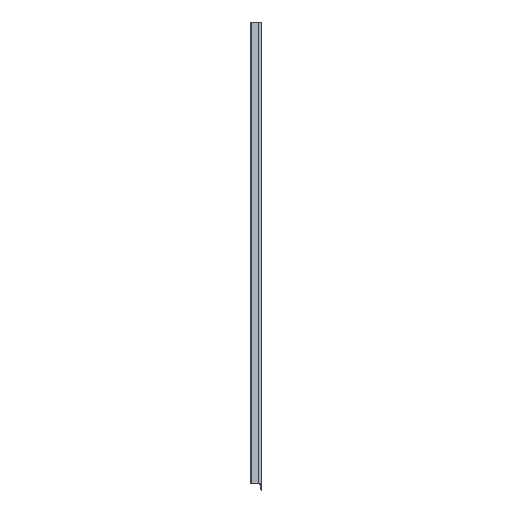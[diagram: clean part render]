
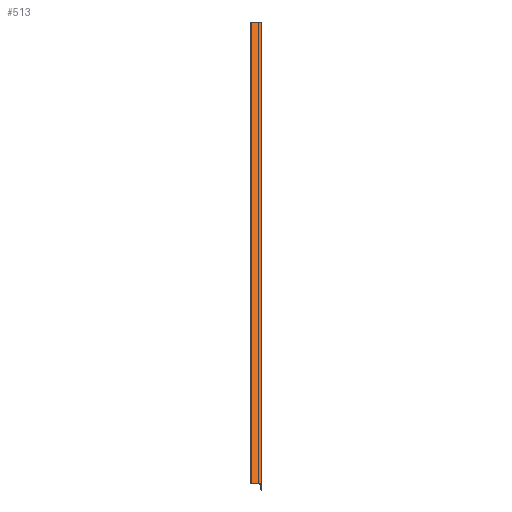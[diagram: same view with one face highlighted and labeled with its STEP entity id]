
A CAD part, front view. The second image highlights one B-rep face of the part: STEP entity #513.
In plain terms, the highlighted planar face has unit normal (0, -0.805, 0.594).
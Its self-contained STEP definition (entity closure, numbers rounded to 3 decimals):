
#5 = ORIENTED_EDGE ( 'NONE', *, *, #412, .F. ) ;
#19 = DIRECTION ( 'NONE',  ( 0., 0.805, -0.594 ) ) ;
#59 = ORIENTED_EDGE ( 'NONE', *, *, #191, .F. ) ;
#75 = VERTEX_POINT ( 'NONE', #397 ) ;
#87 = LINE ( 'NONE', #374, #113 ) ;
#113 = VECTOR ( 'NONE', #154, 1000. ) ;
#143 = CARTESIAN_POINT ( 'NONE',  ( -55., 2214.892, 143.583 ) ) ;
#154 = DIRECTION ( 'NONE',  ( -1., 0., 0. ) ) ;
#175 = LINE ( 'NONE', #398, #517 ) ;
#191 = EDGE_CURVE ( 'NONE', #271, #385, #379, .T. ) ;
#219 = CARTESIAN_POINT ( 'NONE',  ( -5., 2214.892, 143.583 ) ) ;
#244 = VECTOR ( 'NONE', #333, 1000. ) ;
#247 = DIRECTION ( 'NONE',  ( 0., 0.594, 0.805 ) ) ;
#271 = VERTEX_POINT ( 'NONE', #219 ) ;
#299 = CARTESIAN_POINT ( 'NONE',  ( -5., 2214.892, 143.583 ) ) ;
#316 = CARTESIAN_POINT ( 'NONE',  ( -55., 3714.877, 2176.107 ) ) ;
#333 = DIRECTION ( 'NONE',  ( -1., 0., 0. ) ) ;
#338 = ORIENTED_EDGE ( 'NONE', *, *, #702, .T. ) ;
#372 = DIRECTION ( 'NONE',  ( 0., 0.594, 0.805 ) ) ;
#374 = CARTESIAN_POINT ( 'NONE',  ( -5., 3714.877, 2176.107 ) ) ;
#375 = LINE ( 'NONE', #143, #619 ) ;
#379 = LINE ( 'NONE', #548, #244 ) ;
#385 = VERTEX_POINT ( 'NONE', #588 ) ;
#397 = CARTESIAN_POINT ( 'NONE',  ( -5., 3714.877, 2176.107 ) ) ;
#398 = CARTESIAN_POINT ( 'NONE',  ( -5., 2214.892, 143.583 ) ) ;
#412 = EDGE_CURVE ( 'NONE', #385, #509, #375, .T. ) ;
#447 = ORIENTED_EDGE ( 'NONE', *, *, #646, .T. ) ;
#509 = VERTEX_POINT ( 'NONE', #316 ) ;
#513 = ADVANCED_FACE ( 'NONE', ( #534 ), #649, .F. ) ;
#517 = VECTOR ( 'NONE', #632, 1000. ) ;
#534 = FACE_OUTER_BOUND ( 'NONE', #674, .T. ) ;
#548 = CARTESIAN_POINT ( 'NONE',  ( -5., 2214.892, 143.583 ) ) ;
#588 = CARTESIAN_POINT ( 'NONE',  ( -55., 2214.892, 143.583 ) ) ;
#619 = VECTOR ( 'NONE', #372, 1000. ) ;
#632 = DIRECTION ( 'NONE',  ( 0., 0.594, 0.805 ) ) ;
#646 = EDGE_CURVE ( 'NONE', #271, #75, #175, .T. ) ;
#649 = PLANE ( 'NONE',  #736 ) ;
#674 = EDGE_LOOP ( 'NONE', ( #338, #5, #59, #447 ) ) ;
#702 = EDGE_CURVE ( 'NONE', #75, #509, #87, .T. ) ;
#736 = AXIS2_PLACEMENT_3D ( 'NONE', #299, #19, #247 ) ;
